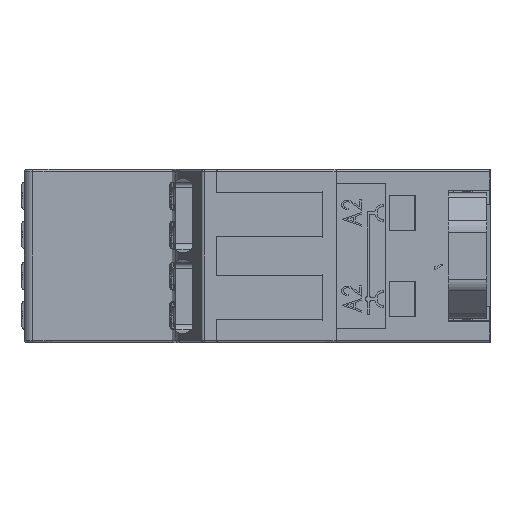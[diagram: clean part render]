
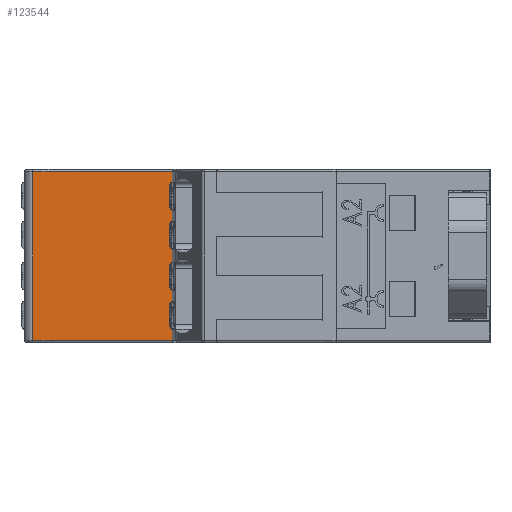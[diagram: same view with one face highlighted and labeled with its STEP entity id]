
A CAD part, left-side view. The second image highlights one B-rep face of the part: STEP entity #123544.
In plain terms, the highlighted planar face has unit normal (-1, 0, 0).
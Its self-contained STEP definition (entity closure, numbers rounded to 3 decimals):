
#583 = DIRECTION ( 'NONE',  ( 0., 0., -1. ) ) ;
#889 = CARTESIAN_POINT ( 'NONE',  ( 4.24, 3.692, -64.794 ) ) ;
#3396 = ORIENTED_EDGE ( 'NONE', *, *, #57096, .T. ) ;
#5797 = LINE ( 'NONE', #49883, #21260 ) ;
#8682 = VERTEX_POINT ( 'NONE', #86917 ) ;
#8792 = VECTOR ( 'NONE', #583, 1000. ) ;
#10414 = ORIENTED_EDGE ( 'NONE', *, *, #35825, .T. ) ;
#15142 = ORIENTED_EDGE ( 'NONE', *, *, #28744, .F. ) ;
#16478 = DIRECTION ( 'NONE',  ( 0., 1., 0. ) ) ;
#16864 = LINE ( 'NONE', #37098, #61593 ) ;
#17194 = LINE ( 'NONE', #115596, #137830 ) ;
#19687 = DIRECTION ( 'NONE',  ( 0., 1., 0. ) ) ;
#20274 = VERTEX_POINT ( 'NONE', #46528 ) ;
#21260 = VECTOR ( 'NONE', #36864, 1000. ) ;
#26963 = DIRECTION ( 'NONE',  ( 0., -1., 0. ) ) ;
#28744 = EDGE_CURVE ( 'NONE', #8682, #74697, #132283, .T. ) ;
#28802 = VECTOR ( 'NONE', #97332, 1000. ) ;
#32516 = CARTESIAN_POINT ( 'NONE',  ( 4.24, -3.208, -66.344 ) ) ;
#34887 = VERTEX_POINT ( 'NONE', #96073 ) ;
#35825 = EDGE_CURVE ( 'NONE', #34887, #74697, #74527, .T. ) ;
#36002 = CARTESIAN_POINT ( 'NONE',  ( 4.24, -2.958, -66.344 ) ) ;
#36731 = ORIENTED_EDGE ( 'NONE', *, *, #140426, .F. ) ;
#36864 = DIRECTION ( 'NONE',  ( 0., 0., 1. ) ) ;
#37098 = CARTESIAN_POINT ( 'NONE',  ( 4.24, 3.942, -65.044 ) ) ;
#40174 = EDGE_CURVE ( 'NONE', #141541, #107882, #57514, .T. ) ;
#40476 = LINE ( 'NONE', #107055, #110109 ) ;
#41392 = PLANE ( 'NONE',  #56017 ) ;
#42121 = EDGE_CURVE ( 'NONE', #74858, #8682, #16864, .T. ) ;
#45010 = DIRECTION ( 'NONE',  ( 1., 0., 0. ) ) ;
#46528 = CARTESIAN_POINT ( 'NONE',  ( 4.24, 3.692, -52.294 ) ) ;
#46706 = CARTESIAN_POINT ( 'NONE',  ( 4.24, 3.942, -50.994 ) ) ;
#49034 = VERTEX_POINT ( 'NONE', #69046 ) ;
#49883 = CARTESIAN_POINT ( 'NONE',  ( 4.24, 16.642, -130.061 ) ) ;
#51600 = EDGE_CURVE ( 'NONE', #34887, #107882, #5797, .T. ) ;
#52239 = FACE_OUTER_BOUND ( 'NONE', #118864, .T. ) ;
#52376 = CIRCLE ( 'NONE', #121703, 0.25 ) ;
#53829 = ORIENTED_EDGE ( 'NONE', *, *, #42121, .F. ) ;
#54282 = CARTESIAN_POINT ( 'NONE',  ( 4.24, 16.642, -50.994 ) ) ;
#54772 = VERTEX_POINT ( 'NONE', #87262 ) ;
#55370 = ORIENTED_EDGE ( 'NONE', *, *, #96535, .F. ) ;
#55773 = EDGE_CURVE ( 'NONE', #54772, #20274, #79850, .T. ) ;
#56017 = AXIS2_PLACEMENT_3D ( 'NONE', #85508, #129687, #19687 ) ;
#57096 = EDGE_CURVE ( 'NONE', #74858, #49034, #52376, .T. ) ;
#57514 = LINE ( 'NONE', #46706, #58457 ) ;
#58457 = VECTOR ( 'NONE', #66971, 1000. ) ;
#61593 = VECTOR ( 'NONE', #26963, 1000. ) ;
#64781 = ORIENTED_EDGE ( 'NONE', *, *, #40174, .T. ) ;
#66971 = DIRECTION ( 'NONE',  ( 0., 1., 0. ) ) ;
#69046 = CARTESIAN_POINT ( 'NONE',  ( 4.24, 3.942, -64.794 ) ) ;
#69055 = ORIENTED_EDGE ( 'NONE', *, *, #51600, .F. ) ;
#70913 = VERTEX_POINT ( 'NONE', #106721 ) ;
#74527 = LINE ( 'NONE', #32516, #139039 ) ;
#74697 = VERTEX_POINT ( 'NONE', #36002 ) ;
#74858 = VERTEX_POINT ( 'NONE', #125720 ) ;
#75098 = CARTESIAN_POINT ( 'NONE',  ( 4.24, -2.958, -65.044 ) ) ;
#75911 = DIRECTION ( 'NONE',  ( 0., -1., 0. ) ) ;
#79850 = CIRCLE ( 'NONE', #100635, 0.25 ) ;
#80786 = CARTESIAN_POINT ( 'NONE',  ( 4.24, 3.692, -52.544 ) ) ;
#85508 = CARTESIAN_POINT ( 'NONE',  ( 4.24, 3.942, -50.744 ) ) ;
#86917 = CARTESIAN_POINT ( 'NONE',  ( 4.24, -2.958, -65.044 ) ) ;
#87262 = CARTESIAN_POINT ( 'NONE',  ( 4.24, 3.942, -52.544 ) ) ;
#89119 = DIRECTION ( 'NONE',  ( 0., 0., -1. ) ) ;
#96073 = CARTESIAN_POINT ( 'NONE',  ( 4.24, 16.642, -66.344 ) ) ;
#96535 = EDGE_CURVE ( 'NONE', #54772, #49034, #140806, .T. ) ;
#97332 = DIRECTION ( 'NONE',  ( 0., 0., -1. ) ) ;
#99012 = CARTESIAN_POINT ( 'NONE',  ( 4.24, -2.958, -50.994 ) ) ;
#99266 = ORIENTED_EDGE ( 'NONE', *, *, #140024, .T. ) ;
#100635 = AXIS2_PLACEMENT_3D ( 'NONE', #80786, #123555, #124964 ) ;
#106721 = CARTESIAN_POINT ( 'NONE',  ( 4.24, -2.958, -52.294 ) ) ;
#107055 = CARTESIAN_POINT ( 'NONE',  ( 4.24, -2.958, -52.294 ) ) ;
#107882 = VERTEX_POINT ( 'NONE', #54282 ) ;
#110109 = VECTOR ( 'NONE', #119997, 1000. ) ;
#115596 = CARTESIAN_POINT ( 'NONE',  ( 4.24, 3.942, -52.294 ) ) ;
#118864 = EDGE_LOOP ( 'NONE', ( #69055, #10414, #15142, #53829, #3396, #55370, #127045, #36731, #99266, #64781 ) ) ;
#119072 = CARTESIAN_POINT ( 'NONE',  ( 4.24, 3.942, -50.744 ) ) ;
#119997 = DIRECTION ( 'NONE',  ( 0., 0., 1. ) ) ;
#121703 = AXIS2_PLACEMENT_3D ( 'NONE', #889, #45010, #89119 ) ;
#123544 = ADVANCED_FACE ( 'NONE', ( #52239 ), #41392, .F. ) ;
#123555 = DIRECTION ( 'NONE',  ( 1., 0., 0. ) ) ;
#124964 = DIRECTION ( 'NONE',  ( 0., 0., -1. ) ) ;
#125720 = CARTESIAN_POINT ( 'NONE',  ( 4.24, 3.692, -65.044 ) ) ;
#127045 = ORIENTED_EDGE ( 'NONE', *, *, #55773, .T. ) ;
#129687 = DIRECTION ( 'NONE',  ( 1., 0., 0. ) ) ;
#132283 = LINE ( 'NONE', #75098, #8792 ) ;
#137830 = VECTOR ( 'NONE', #16478, 1000. ) ;
#139039 = VECTOR ( 'NONE', #75911, 1000. ) ;
#140024 = EDGE_CURVE ( 'NONE', #70913, #141541, #40476, .T. ) ;
#140426 = EDGE_CURVE ( 'NONE', #70913, #20274, #17194, .T. ) ;
#140806 = LINE ( 'NONE', #119072, #28802 ) ;
#141541 = VERTEX_POINT ( 'NONE', #99012 ) ;
